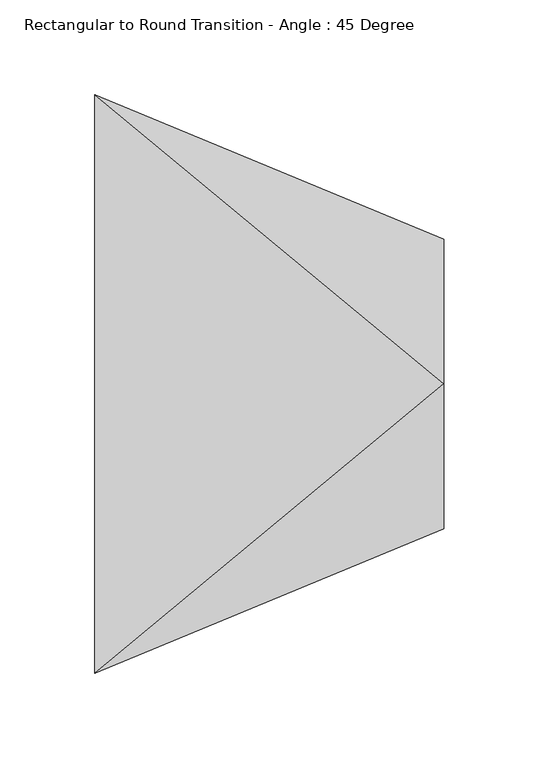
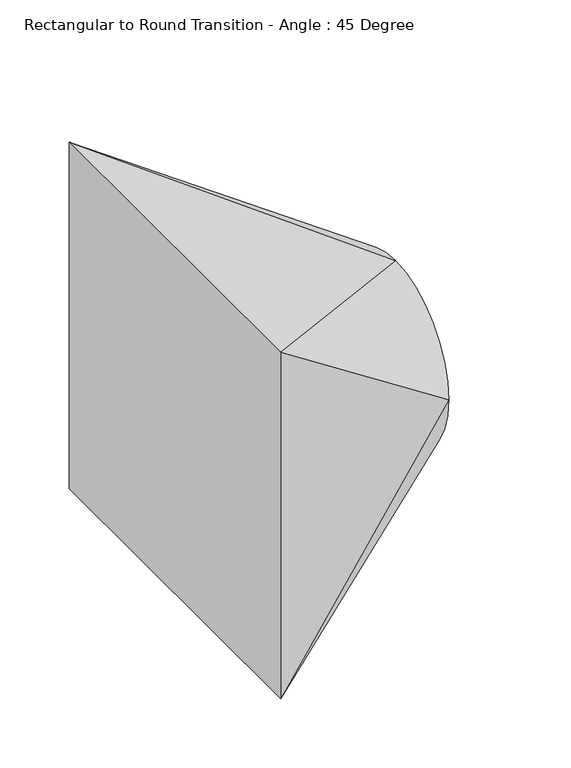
"""IFC4 building model written with IfcOpenShell, lengths in millimetres: duct fitting geometry, Rectangular to Round Transition - Angle : 45 Degree."""

from ifc_helpers import new_model, si_unit, frame, origin, place, context, project, spatial, circle_curve, source, transform, mapped, element, save
from ifc_brep_helpers import plane_surface, spline_surface, advanced_brep


def rectangular_to_round_transition_angle_45_degree_863a2dcc(model_context):
    return source(origin(), model_context, "Body", "AdvancedBrep", [
        advanced_brep(
        [(183.9630735, 0.0, 76.2318485), (183.9630735, -76.2, 0.0318485), (183.9630735, 0.0, -76.1681515), (183.9630735, 76.2, 0.0318485), (0.0, -152.4, 152.4), (0.0, 152.4, 152.4), (0.0, 152.4, -152.4), (0.0, -152.4, -152.4)],
        [
            (0, 1, circle_curve(frame((183.9630735, 0.0, 0.0318485), z_axis=(1.0, 0.0, 0.0), x_axis=(0.0, 1.0, 0.0)), 76.2)),
            (1, 2, circle_curve(frame((183.9630735, 0.0, 0.0318485), z_axis=(1.0, 0.0, 0.0), x_axis=(0.0, 1.0, 0.0)), 76.2)),
            (2, 3, circle_curve(frame((183.9630735, 0.0, 0.0318485), z_axis=(1.0, 0.0, 0.0), x_axis=(0.0, 1.0, 0.0)), 76.2)),
            (3, 0, circle_curve(frame((183.9630735, 0.0, 0.0318485), z_axis=(1.0, 0.0, 0.0), x_axis=(0.0, 1.0, 0.0)), 76.2)),
            (4, 5),
            (5, 6),
            (6, 7),
            (7, 4),
            (0, 4),
            (4, 1),
            (7, 1),
            (7, 2),
            (6, 2),
            (6, 3),
            (5, 3),
            (5, 0),
        ],
        [
            plane_surface(frame((183.9630735, 0.0, 0.0318485), z_axis=(1.0, 0.0, 0.0), x_axis=(0.0, 0.0, -1.0))),
            plane_surface(frame((0.0, 0.0, 0.0), z_axis=(-1.0, 0.0, 0.0), x_axis=(0.0, 0.0, -1.0))),
            spline_surface(2, 1, [[(0.0, -152.4, 152.4), (183.9630735, 0.0, 76.2318485)], [(0.0, -152.4, 152.4), (183.9630735, -76.2, 76.2318485)], [(0.0, -152.4, 152.4), (183.9630735, -76.2, 0.0318485)]], [3, 3], [2, 2], [0.0, 1.0], [0.0, 1.0], weights=[[1.0, 1.0], [0.7071067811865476, 0.7071067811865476], [1.0, 1.0]]),
            plane_surface(frame((0.0, -152.4, 0.0), z_axis=(0.38268343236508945, -0.9238795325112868, 0.0), x_axis=(0.0, 0.0, -1.0))),
            spline_surface(2, 1, [[(0.0, -152.4, -152.4), (183.9630735, -76.2, 0.0318485)], [(0.0, -152.4, -152.4), (183.9630735, -76.20000000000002, -76.16815150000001)], [(0.0, -152.4, -152.4), (183.9630735, 0.0, -76.1681515)]], [3, 3], [2, 2], [0.0, 1.0], [0.0, 1.0], weights=[[1.0, 1.0], [0.7071067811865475, 0.7071067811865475], [1.0, 1.0]]),
            plane_surface(frame((0.0, 0.0, -152.4), z_axis=(0.3828199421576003, 0.0, -0.9238229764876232), x_axis=(0.0, 1.0, 0.0))),
            spline_surface(2, 1, [[(0.0, 152.4, -152.4), (183.9630735, 0.0, -76.1681515)], [(0.0, 152.4, -152.4), (183.9630735, 76.19999999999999, -76.16815149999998)], [(0.0, 152.4, -152.4), (183.9630735, 76.2, 0.0318485)]], [3, 3], [2, 2], [0.0, 1.0], [0.0, 1.0], weights=[[1.0, 1.0], [0.7071067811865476, 0.7071067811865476], [1.0, 1.0]]),
            plane_surface(frame((0.0, 152.4, 0.0), z_axis=(0.3826834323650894, 0.923879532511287, 0.0), x_axis=(0.0, 0.0, 1.0))),
            spline_surface(2, 1, [[(0.0, 152.4, 152.4), (183.9630735, 76.2, 0.0318485)], [(0.0, 152.4, 152.4), (183.9630735, 76.2, 76.2318485)], [(0.0, 152.4, 152.4), (183.9630735, 0.0, 76.2318485)]], [3, 3], [2, 2], [0.0, 1.0], [0.0, 1.0], weights=[[1.0, 1.0], [0.7071067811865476, 0.7071067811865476], [1.0, 1.0]]),
            plane_surface(frame((0.0, 0.0, 152.4), z_axis=(0.38254689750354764, 0.0, 0.9239360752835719), x_axis=(0.0, -1.0, 0.0))),
        ],
        [
            (0, [[1, 2, 3, 4]]),
            (1, [[5, 6, 7, 8]]),
            (2, [[-1, 9, 10]]),
            (3, [[-8, 11, -10]]),
            (4, [[-2, -11, 12]]),
            (5, [[-7, 13, -12]]),
            (6, [[-3, -13, 14]]),
            (7, [[-6, 15, -14]]),
            (8, [[-4, -15, 16]]),
            (9, [[-5, -9, -16]]),
        ],
    ),
    ])


if __name__ == "__main__":
    model = new_model("IFC4")
    model_context = context("Model", 3, world=origin())
    ifc_project = project(units=[si_unit("LENGTHUNIT", "METRE", prefix="MILLI")], contexts=[model_context])
    site = spatial("IfcSite", under=ifc_project)
    building = spatial("IfcBuilding", under=site)
    placement = place(None, origin())
    rectangular_to_round_transition_angle_45_degree_shape = rectangular_to_round_transition_angle_45_degree_863a2dcc(model_context)
    element("IfcDuctFitting", 1, ObjectType="Rectangular to Round Transition - Angle : 45 Degree", at=placement, inside=building, context=model_context, shape_type="MappedRepresentation", body=[
        mapped(rectangular_to_round_transition_angle_45_degree_shape, transform((0.0, 0.0, 0.0), x_axis=(1.0, 0.0, 0.0), y_axis=(0.0, 1.0, 0.0), z_axis=(0.0, 0.0, 1.0))),
    ])
    save(model, "model.ifc")
